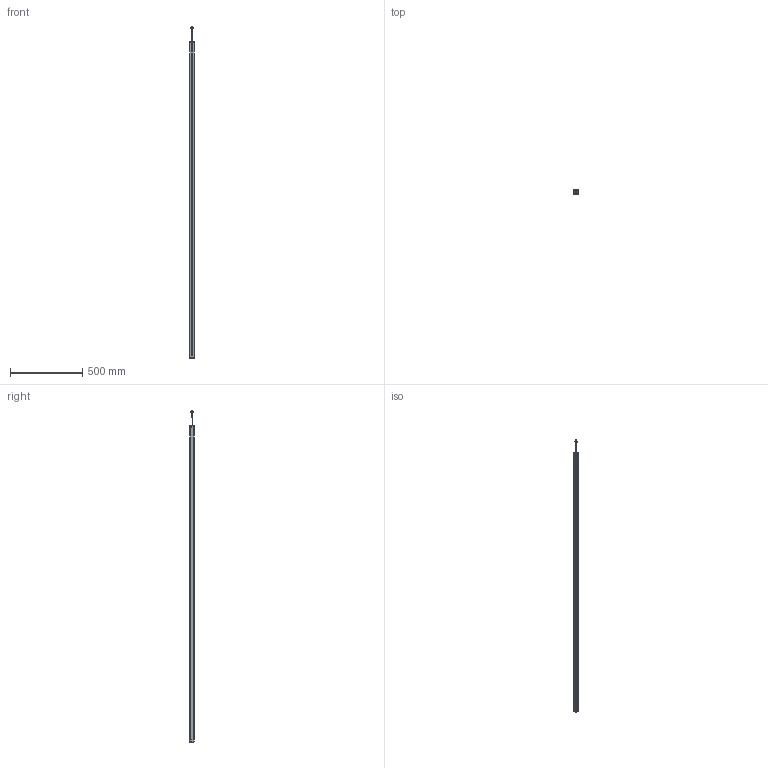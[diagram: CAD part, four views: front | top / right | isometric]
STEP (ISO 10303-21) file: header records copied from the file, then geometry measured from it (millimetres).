
FILE_DESCRIPTION((''),'2;1');
FILE_NAME('SMT1-CGQ_ASM','2025-08-08T08:53:54',('Administrator'),(''),'CREO PARAMETRIC BY PTC INC, 2016510','CREO PARAMETRIC BY PTC INC, 2016510','');
FILE_SCHEMA(('CONFIG_CONTROL_DESIGN'));
Length unit declared in the file: millimetre
Products named in the file (7): SMT1-XINGCAI-V1; SMT1-SDG-V1; SMT1-XDG-V1; M12-CHATOU; ST3X18; CT4-LVGUANGBAN; SMT1-CGQ_ASM
Assembly tree (13 placements, depth 2):
  SMT1-CGQ_ASM
    SMT1-XINGCAI-V1
    SMT1-SDG-V1
    SMT1-XDG-V1
    M12-CHATOU
    ST3X18  x8
    CT4-LVGUANGBAN
Bounding box: 33 x 28.02 x 2299.5 mm (x, y, z)
Volume: 1688977.4 mm3; surface area: 537146.9 mm2
Topology: 13 solids, 13 shells, 712 faces, 1868 edges, 1200 vertices
Faces by surface type: plane 382, cylinder 184, extrusion 86, sphere 32, cone 20, bspline 8
Entity records: 18128 total; most frequent: CARTESIAN_POINT 4347, ORIENTED_EDGE 2916, DIRECTION 2580, EDGE_CURVE 1458, VECTOR 1036, VERTEX_POINT 955, LINE 950, AXIS2_PLACEMENT_3D 772
